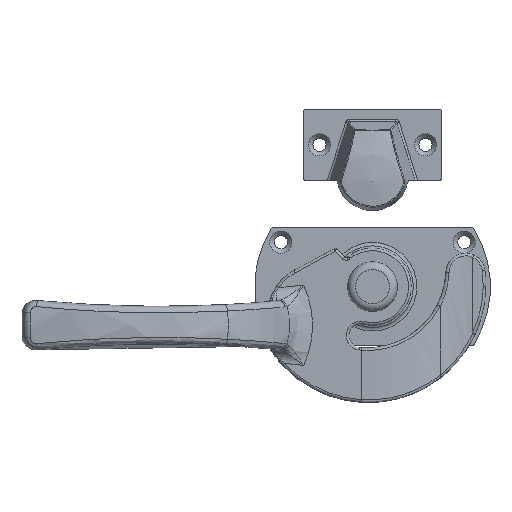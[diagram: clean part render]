
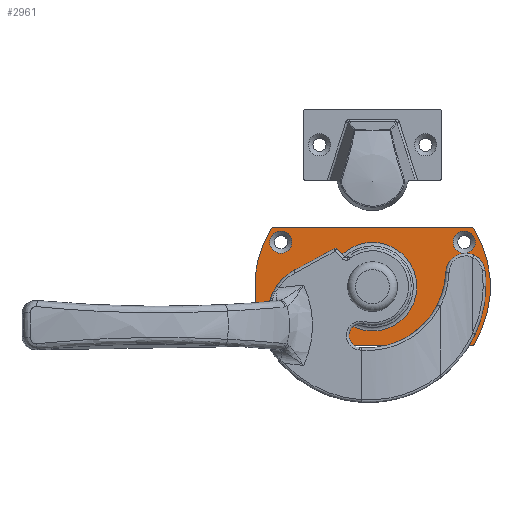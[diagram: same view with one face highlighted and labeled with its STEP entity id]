
A CAD part, top view. The second image highlights one B-rep face of the part: STEP entity #2961.
In plain terms, the highlighted planar face has unit normal (0, 0, 1).
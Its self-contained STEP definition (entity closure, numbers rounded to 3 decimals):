
#219=FACE_BOUND('',#721,.T.);
#220=FACE_BOUND('',#722,.T.);
#221=FACE_BOUND('',#723,.T.);
#222=FACE_BOUND('',#724,.T.);
#223=FACE_BOUND('',#725,.T.);
#513=FACE_OUTER_BOUND('',#720,.T.);
#720=EDGE_LOOP('',(#2309,#2310,#2311,#2312,#2313,#2314,#2315,#2316));
#721=EDGE_LOOP('',(#2317));
#722=EDGE_LOOP('',(#2318));
#723=EDGE_LOOP('',(#2319));
#724=EDGE_LOOP('',(#2320));
#725=EDGE_LOOP('',(#2321));
#949=CIRCLE('',#3224,1.);
#951=CIRCLE('',#3227,42.192);
#952=CIRCLE('',#3228,1.);
#953=CIRCLE('',#3229,1.);
#954=CIRCLE('',#3230,42.192);
#955=CIRCLE('',#3231,1.);
#956=CIRCLE('',#3232,4.25);
#957=CIRCLE('',#3233,4.25);
#958=CIRCLE('',#3234,4.25);
#959=CIRCLE('',#3235,4.25);
#960=CIRCLE('',#3236,16.914);
#1145=LINE('',#4807,#1264);
#1146=LINE('',#4814,#1265);
#1264=VECTOR('',#3780,75.888);
#1265=VECTOR('',#3787,75.888);
#1409=VERTEX_POINT('',#4793);
#1410=VERTEX_POINT('',#4794);
#1413=VERTEX_POINT('',#4802);
#1414=VERTEX_POINT('',#4804);
#1415=VERTEX_POINT('',#4806);
#1416=VERTEX_POINT('',#4808);
#1417=VERTEX_POINT('',#4810);
#1418=VERTEX_POINT('',#4812);
#1419=VERTEX_POINT('',#4815);
#1420=VERTEX_POINT('',#4817);
#1421=VERTEX_POINT('',#4819);
#1422=VERTEX_POINT('',#4821);
#1423=VERTEX_POINT('',#4823);
#1736=EDGE_CURVE('',#1409,#1410,#949,.T.);
#1740=EDGE_CURVE('',#1409,#1413,#951,.T.);
#1741=EDGE_CURVE('',#1414,#1413,#952,.T.);
#1742=EDGE_CURVE('',#1414,#1415,#1145,.T.);
#1743=EDGE_CURVE('',#1416,#1415,#953,.T.);
#1744=EDGE_CURVE('',#1416,#1417,#954,.T.);
#1745=EDGE_CURVE('',#1418,#1417,#955,.T.);
#1746=EDGE_CURVE('',#1418,#1410,#1146,.T.);
#1747=EDGE_CURVE('',#1419,#1419,#956,.T.);
#1748=EDGE_CURVE('',#1420,#1420,#957,.T.);
#1749=EDGE_CURVE('',#1421,#1421,#958,.T.);
#1750=EDGE_CURVE('',#1422,#1422,#959,.T.);
#1751=EDGE_CURVE('',#1423,#1423,#960,.T.);
#2309=ORIENTED_EDGE('',*,*,#1736,.F.);
#2310=ORIENTED_EDGE('',*,*,#1740,.T.);
#2311=ORIENTED_EDGE('',*,*,#1741,.F.);
#2312=ORIENTED_EDGE('',*,*,#1742,.T.);
#2313=ORIENTED_EDGE('',*,*,#1743,.F.);
#2314=ORIENTED_EDGE('',*,*,#1744,.T.);
#2315=ORIENTED_EDGE('',*,*,#1745,.F.);
#2316=ORIENTED_EDGE('',*,*,#1746,.T.);
#2317=ORIENTED_EDGE('',*,*,#1747,.T.);
#2318=ORIENTED_EDGE('',*,*,#1748,.T.);
#2319=ORIENTED_EDGE('',*,*,#1749,.T.);
#2320=ORIENTED_EDGE('',*,*,#1750,.T.);
#2321=ORIENTED_EDGE('',*,*,#1751,.F.);
#2877=PLANE('',#3226);
#2961=ADVANCED_FACE('',(#513,#219,#220,#221,#222,#223),#2877,.T.);
#3224=AXIS2_PLACEMENT_3D('',#4795,#3768,#3769);
#3226=AXIS2_PLACEMENT_3D('',#4801,#3774,#3775);
#3227=AXIS2_PLACEMENT_3D('',#4803,#3776,#3777);
#3228=AXIS2_PLACEMENT_3D('',#4805,#3778,#3779);
#3229=AXIS2_PLACEMENT_3D('',#4809,#3781,#3782);
#3230=AXIS2_PLACEMENT_3D('',#4811,#3783,#3784);
#3231=AXIS2_PLACEMENT_3D('',#4813,#3785,#3786);
#3232=AXIS2_PLACEMENT_3D('',#4816,#3788,#3789);
#3233=AXIS2_PLACEMENT_3D('',#4818,#3790,#3791);
#3234=AXIS2_PLACEMENT_3D('',#4820,#3792,#3793);
#3235=AXIS2_PLACEMENT_3D('',#4822,#3794,#3795);
#3236=AXIS2_PLACEMENT_3D('',#4824,#3796,#3797);
#3768=DIRECTION('center_axis',(0.,0.,-1.));
#3769=DIRECTION('ref_axis',(0.872,0.489,0.));
#3774=DIRECTION('center_axis',(0.,0.,1.));
#3775=DIRECTION('ref_axis',(1.,0.,0.));
#3776=DIRECTION('center_axis',(0.,0.,1.));
#3777=DIRECTION('ref_axis',(0.533,0.846,0.));
#3778=DIRECTION('center_axis',(0.,0.,-1.));
#3779=DIRECTION('ref_axis',(-0.872,0.489,0.));
#3780=DIRECTION('',(0.,-1.,0.));
#3781=DIRECTION('center_axis',(0.,0.,-1.));
#3782=DIRECTION('ref_axis',(-0.872,-0.489,0.));
#3783=DIRECTION('center_axis',(0.,0.,1.));
#3784=DIRECTION('ref_axis',(-0.533,-0.846,0.));
#3785=DIRECTION('center_axis',(0.,0.,-1.));
#3786=DIRECTION('ref_axis',(0.872,-0.489,0.));
#3787=DIRECTION('',(0.,1.,0.));
#3788=DIRECTION('center_axis',(0.,0.,-1.));
#3789=DIRECTION('ref_axis',(1.,0.,0.));
#3790=DIRECTION('center_axis',(0.,0.,-1.));
#3791=DIRECTION('ref_axis',(1.,0.,0.));
#3792=DIRECTION('center_axis',(0.,0.,-1.));
#3793=DIRECTION('ref_axis',(1.,0.,0.));
#3794=DIRECTION('center_axis',(0.,0.,-1.));
#3795=DIRECTION('ref_axis',(1.,0.,0.));
#3796=DIRECTION('center_axis',(0.,0.,1.));
#3797=DIRECTION('ref_axis',(-1.,0.,0.));
#4793=CARTESIAN_POINT('',(22.022,38.797,6.));
#4794=CARTESIAN_POINT('',(22.5,37.944,6.));
#4795=CARTESIAN_POINT('Origin',(21.5,37.944,6.));
#4801=CARTESIAN_POINT('Origin',(0.,40.404,6.));
#4802=CARTESIAN_POINT('',(-22.022,38.797,6.));
#4803=CARTESIAN_POINT('Origin',(0.,2.808,6.));
#4804=CARTESIAN_POINT('',(-22.5,37.944,6.));
#4805=CARTESIAN_POINT('Origin',(-21.5,37.944,6.));
#4806=CARTESIAN_POINT('',(-22.5,-37.944,6.));
#4807=CARTESIAN_POINT('',(-22.5,38.5,6.));
#4808=CARTESIAN_POINT('',(-22.022,-38.797,6.));
#4809=CARTESIAN_POINT('Origin',(-21.5,-37.944,6.));
#4810=CARTESIAN_POINT('',(22.022,-38.797,6.));
#4811=CARTESIAN_POINT('Origin',(0.,-2.808,6.));
#4812=CARTESIAN_POINT('',(22.5,-37.944,6.));
#4813=CARTESIAN_POINT('Origin',(21.5,-37.944,6.));
#4814=CARTESIAN_POINT('',(22.5,-38.5,6.));
#4815=CARTESIAN_POINT('',(21.25,-35.,6.));
#4816=CARTESIAN_POINT('Origin',(17.,-35.,6.));
#4817=CARTESIAN_POINT('',(-12.75,35.,6.));
#4818=CARTESIAN_POINT('Origin',(-17.,35.,6.));
#4819=CARTESIAN_POINT('',(21.25,35.,6.));
#4820=CARTESIAN_POINT('Origin',(17.,35.,6.));
#4821=CARTESIAN_POINT('',(-12.75,-35.,6.));
#4822=CARTESIAN_POINT('Origin',(-17.,-35.,6.));
#4823=CARTESIAN_POINT('',(16.914,0.,6.));
#4824=CARTESIAN_POINT('Origin',(0.,0.,6.));
